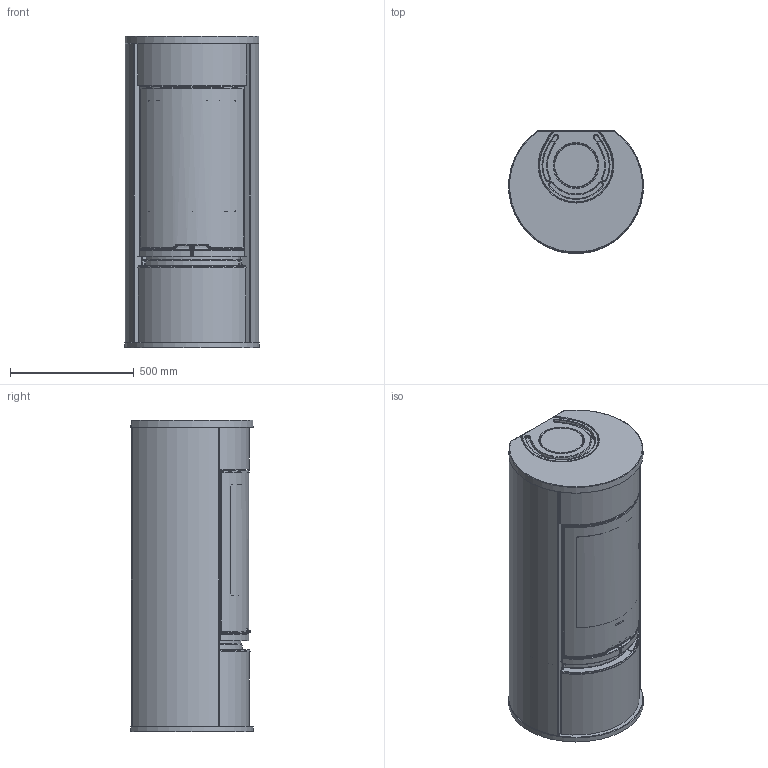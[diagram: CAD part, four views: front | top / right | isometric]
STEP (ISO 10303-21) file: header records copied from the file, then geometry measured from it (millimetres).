
FILE_DESCRIPTION(/* description */ ('Unknown'),/* implementation_level */ '2;1');
FILE_NAME(/* name */ 'C610G interior model-0',/* time_stamp */ '2017-06-28T13:12:15+02:00',/* author */ ('Unknown'),/* organization */ ('NIBE AB/Contura'),/* preprocessor_version */ 'ST-DEVELOPER v16.7',/* originating_system */ 'DEX',/* authorisation */ $);
FILE_SCHEMA (('AUTOMOTIVE_DESIGN {1 0 10303 214 3 1 1}'));
Products named in the file (14): DSN1018736; DSN1018428; DSN1018413; DSN1018423; DSN1018424; DSN1018427; DSN1018781; DSN1018414; DSN1018411; DSN1018429; DSN1018422; DSN1018737; DSN1018433; DSN1018739
Assembly tree (13 placements, depth 2):
  DSN1018736
    DSN1018428
    DSN1018413
    DSN1018423
    DSN1018424
    DSN1018427
    DSN1018781
    DSN1018414
    DSN1018411
    DSN1018429
    DSN1018422
    DSN1018737
    DSN1018433
    DSN1018739
Bounding box: 542.46 x 495.19 x 1258 mm (x, y, z)
Volume: 224527186.2 mm3; surface area: 10919799.3 mm2
Topology: 14 solids, 20 shells, 1259 faces, 3171 edges, 2037 vertices
Faces by surface type: plane 478, bspline 366, cylinder 258, torus 90, cone 44, sphere 23
Full cylindrical faces by diameter (mm): 170 x1, 172 x1, 205 x1, 210.655 x1
Entity records: 51448 total; most frequent: CARTESIAN_POINT 23002, ORIENTED_EDGE 6252, DIRECTION 4433, EDGE_CURVE 3126, VERTEX_POINT 2021, AXIS2_PLACEMENT_3D 1743, EDGE_LOOP 1381, FACE_BOUND 1381
